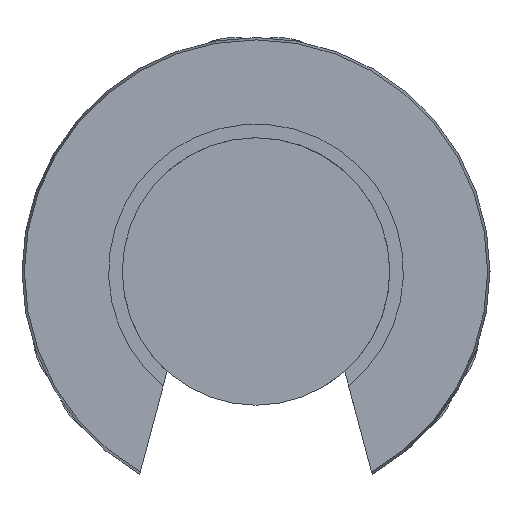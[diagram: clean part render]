
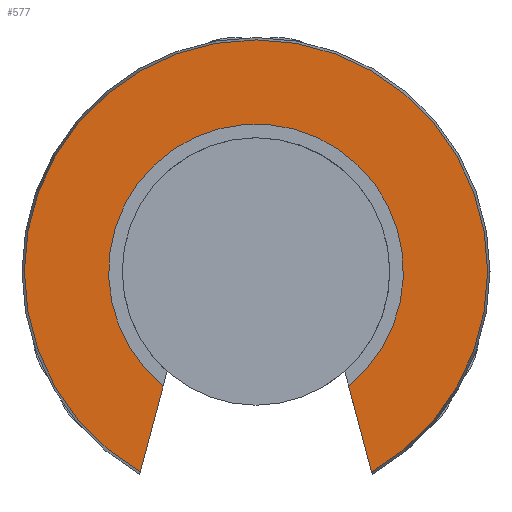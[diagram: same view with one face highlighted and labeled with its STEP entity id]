
A CAD part, front view. The second image highlights one B-rep face of the part: STEP entity #577.
In plain terms, the highlighted planar face has unit normal (0, -1, 0).
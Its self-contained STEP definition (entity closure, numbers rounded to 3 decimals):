
#275=CARTESIAN_POINT('',(5.497,-15.875,-9.528));
#276=VERTEX_POINT('',#275);
#290=CARTESIAN_POINT('',(4.402,-15.875,-5.443));
#291=VERTEX_POINT('',#290);
#292=CARTESIAN_POINT('',(4.402,-15.875,-5.443));
#293=DIRECTION('',(0.259,0.0,-0.966));
#294=VECTOR('',#293,4.23);
#295=LINE('',#292,#294);
#296=EDGE_CURVE('',#291,#276,#295,.T.);
#320=CARTESIAN_POINT('',(-4.408,-15.875,-5.438));
#321=VERTEX_POINT('',#320);
#328=CARTESIAN_POINT('',(-5.503,-15.875,-9.524));
#329=VERTEX_POINT('',#328);
#330=CARTESIAN_POINT('',(-5.503,-15.875,-9.524));
#331=DIRECTION('',(0.259,0.0,0.966));
#332=VECTOR('',#331,4.231);
#333=LINE('',#330,#332);
#334=EDGE_CURVE('',#329,#321,#333,.T.);
#548=CARTESIAN_POINT('',(0.0,-15.875,0.0));
#549=DIRECTION('',(0.0,1.0,0.0));
#550=DIRECTION('',(-1.0,0.0,0.0));
#551=AXIS2_PLACEMENT_3D('',#548,#549,#550);
#552=CIRCLE('',#551,11.0);
#553=EDGE_CURVE('',#329,#276,#552,.T.);
#560=CARTESIAN_POINT('',(-9.,-15.875,0.0));
#561=DIRECTION('',(0.0,-1.0,0.0));
#562=DIRECTION('',(0.0,0.0,-1.0));
#563=AXIS2_PLACEMENT_3D('',#560,#561,#562);
#564=PLANE('',#563);
#565=ORIENTED_EDGE('',*,*,#334,.T.);
#566=CARTESIAN_POINT('',(0.0,-15.875,0.0));
#567=DIRECTION('',(0.0,1.0,0.0));
#568=DIRECTION('',(-1.0,0.0,0.0));
#569=AXIS2_PLACEMENT_3D('',#566,#567,#568);
#570=CIRCLE('',#569,7.);
#571=EDGE_CURVE('',#321,#291,#570,.T.);
#572=ORIENTED_EDGE('',*,*,#571,.T.);
#573=ORIENTED_EDGE('',*,*,#296,.T.);
#574=ORIENTED_EDGE('',*,*,#553,.F.);
#575=EDGE_LOOP('',(#565,#572,#573,#574));
#576=FACE_OUTER_BOUND('',#575,.T.);
#577=ADVANCED_FACE('',(#576),#564,.T.);
